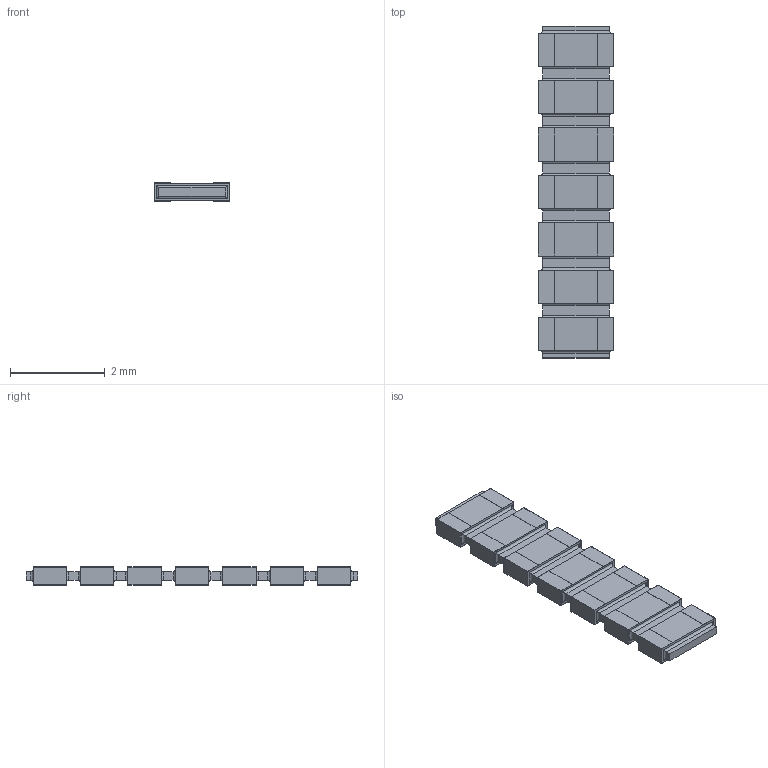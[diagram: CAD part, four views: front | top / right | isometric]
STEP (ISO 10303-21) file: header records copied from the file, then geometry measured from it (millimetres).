
FILE_DESCRIPTION(/* description */ (''),/* implementation_level */ '2;1');
FILE_NAME(/* name */ 'S:\DOCUMENT\AUTOCAD\3D_Modèles\10_3D-pour-VISHAY-COM\PRA\PRAHR100I7_B.stp',/* time_stamp */ '2018-02-02T10:47:46+01:00',/* author */ ('dparmentier'),/* organization */ ('unknown'),/* preprocessor_version */ 'ST-DEVELOPER v17',/* originating_system */ 'Autodesk Inventor 2018',/* authorisation */ '');
FILE_SCHEMA (('AUTOMOTIVE_DESIGN { 1 0 10303 214 3 1 1 }'));
Length unit declared in the file: millimetre
Products named in the file (1): PRAHR100I7_B
Bounding box: 1.6 x 7 x 0.38 mm (x, y, z)
Volume: 3.5 mm3; surface area: 51 mm2
Topology: 15 solids, 15 shells, 272 faces, 628 edges, 400 vertices
Faces by surface type: plane 216, cylinder 56
Entity records: 7559 total; most frequent: CARTESIAN_POINT 1301, ORIENTED_EDGE 1256, DIRECTION 1230, EDGE_CURVE 628, LINE 572, VECTOR 572, VERTEX_POINT 400, AXIS2_PLACEMENT_3D 329
